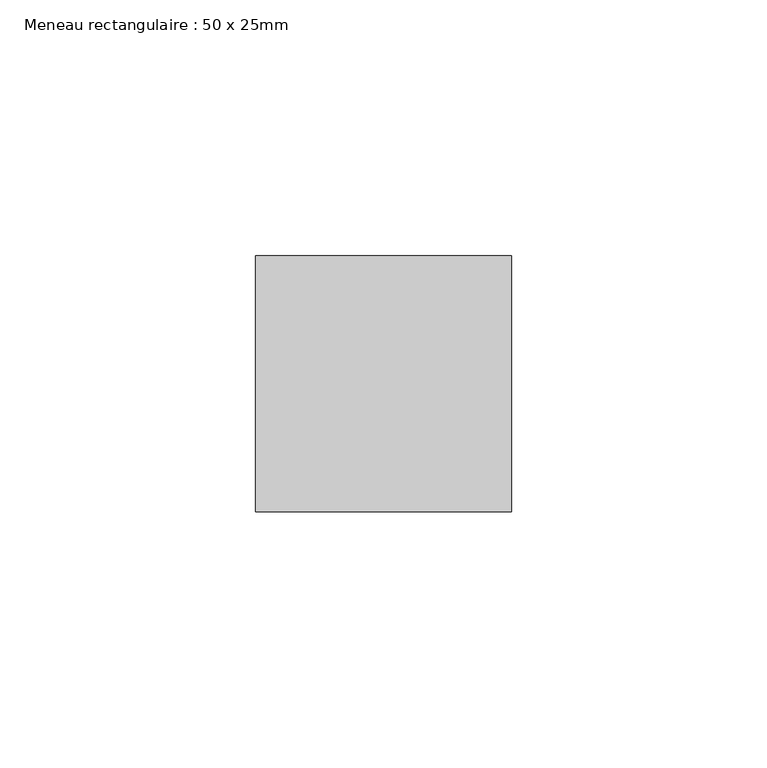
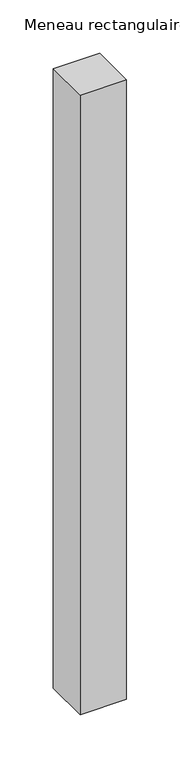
"""IFC4 building model written with IfcOpenShell, lengths in millimetres: member geometry, Meneau rectangulaire : 50 x 25mm."""

from ifc_helpers import new_model, si_unit, frame, origin, place, context, project, spatial, polyline, outline, extrude, source, transform, mapped, element, save


def meneau_rectangulaire_50_x_25mm_1c09d2f3(model_context):
    return source(origin(), model_context, "Body", "SweptSolid", [
        extrude(outline(polyline([(25.0, 0.0), (25.0, -50.0), (-25.0, -50.0), (-25.0, 0.0), (25.0, 0.0)])), frame((0.0, 0.0, -709.0), z_axis=(0.0, 0.0, 1.0), x_axis=(1.0, 0.0, 0.0)), (0.0, 0.0, 1.0), 709.0),
    ])


if __name__ == "__main__":
    model = new_model("IFC4")
    model_context = context("Model", 3, world=origin())
    ifc_project = project(units=[si_unit("LENGTHUNIT", "METRE", prefix="MILLI")], contexts=[model_context])
    site = spatial("IfcSite", under=ifc_project)
    building = spatial("IfcBuilding", under=site)
    placement = place(None, origin())
    meneau_rectangulaire_50_x_25mm_shape = meneau_rectangulaire_50_x_25mm_1c09d2f3(model_context)
    element("IfcMember", 1, ObjectType="Meneau rectangulaire : 50 x 25mm", at=placement, inside=building, context=model_context, shape_type="MappedRepresentation", body=[
        mapped(meneau_rectangulaire_50_x_25mm_shape, transform((0.0, 0.0, 0.0), x_axis=(1.0, 0.0, 0.0), y_axis=(0.0, 1.0, 0.0), z_axis=(0.0, 0.0, 1.0))),
    ])
    save(model, "model.ifc")
